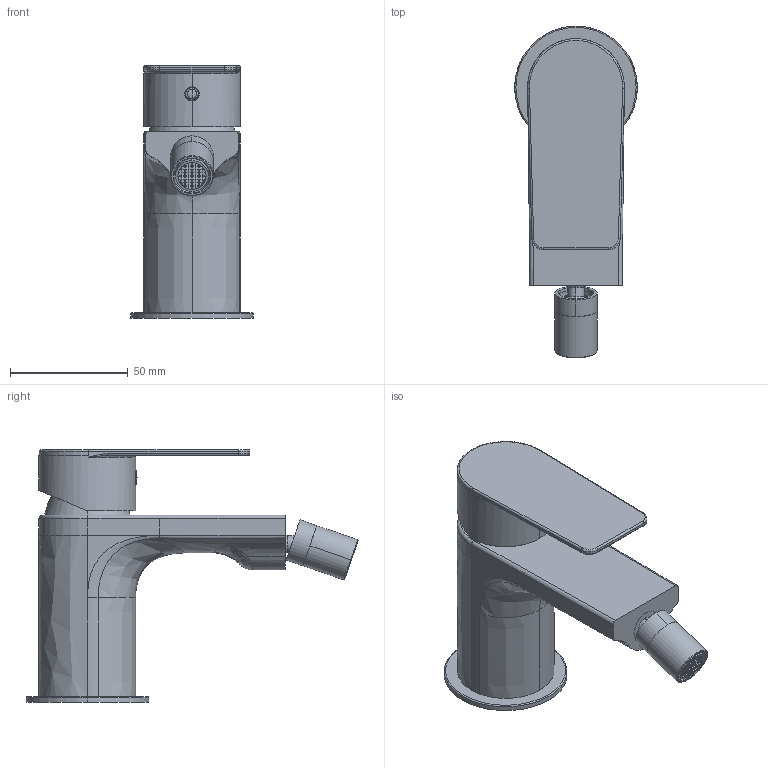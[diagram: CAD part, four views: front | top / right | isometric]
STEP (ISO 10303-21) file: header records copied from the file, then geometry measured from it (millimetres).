
FILE_DESCRIPTION(('STEP AP203'),'2;1');
FILE_NAME('DIS_3D_V608WF.stp','2021-05-24T14:47:26',(''),(''),'2015.2.119','THINKDESIGN','');
FILE_SCHEMA(('CONFIG_CONTROL_DESIGN'));
Length unit declared in the file: millimetre
Bounding box: 52 x 140.81 x 107.3 mm (x, y, z)
Volume: 172697.8 mm3; surface area: 47744.1 mm2
Topology: 8 solids, 8 shells, 1114 faces, 2900 edges, 1900 vertices
Faces by surface type: plane 901, cylinder 111, bspline 102
Full cylindrical faces by diameter (mm): 38.874 x1
Entity records: 42494 total; most frequent: CARTESIAN_POINT 15495, ORIENTED_EDGE 5788, DIRECTION 5050, EDGE_CURVE 2894, VECTOR 2444, LINE 2444, VERTEX_POINT 1900, AXIS2_PLACEMENT_3D 1303
